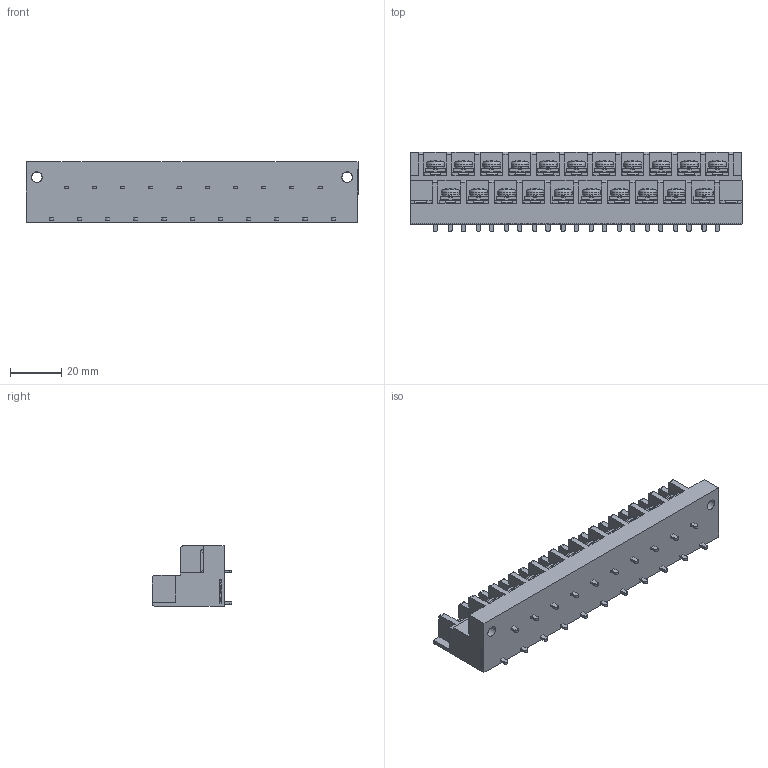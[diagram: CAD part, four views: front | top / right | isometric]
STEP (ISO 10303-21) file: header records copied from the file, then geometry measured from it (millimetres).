
FILE_DESCRIPTION(/* description */ ('Alibre Inc.'),/* implementation_level */ '2;1');
FILE_NAME(/* name */ 'export0',/* time_stamp */ '2016-08-05T14:49:58+09:00',/* author */ (''),/* organization */ (''),/* preprocessor_version */ 'ST-DEVELOPER v14',/* originating_system */ 'Alibre',/* authorisation */ '');
FILE_SCHEMA (('CONFIG_CONTROL_DESIGN'));
Length unit declared in the file: centimetre
Products named in the file (1): ID_1
Bounding box: 129.5 x 31 x 23.5 mm (x, y, z)
Volume: 54052.4 mm3; surface area: 24308.6 mm2
Topology: 1 solids, 190 shells, 4376 faces, 11554 edges, 7630 vertices
Faces by surface type: plane 3391, bspline 670, cylinder 168, cone 84, torus 42, sphere 21
Full cylindrical faces by diameter (mm): 4 x23, 4.2 x2, 7 x21
Entity records: 128372 total; most frequent: CARTESIAN_POINT 29509, ORIENTED_EDGE 23012, DIRECTION 14335, EDGE_CURVE 11443, VECTOR 8625, LINE 8625, VERTEX_POINT 7607, EDGE_LOOP 4741
